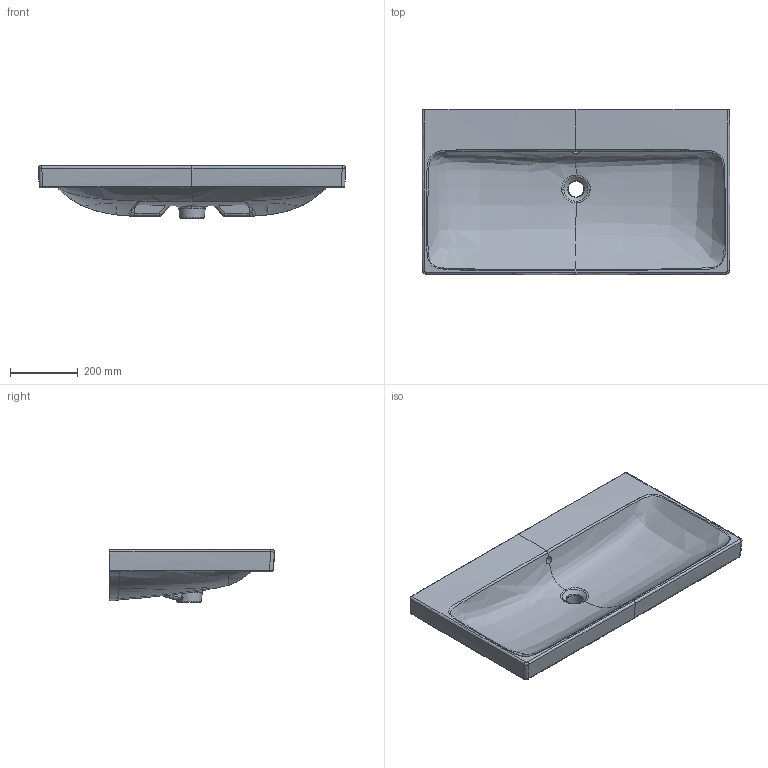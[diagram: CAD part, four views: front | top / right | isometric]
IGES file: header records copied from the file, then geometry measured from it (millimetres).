
Global section: file name: 510.009.00.5; native system: Autodesk Inventor 2023; preprocessor: unknown; author: JANAN; date: 20241002.131109; units: millimetre
Bounding box: 905.76 x 487.69 x 155.95 mm (x, y, z)
Volume: 18485176.2 mm3; surface area: 1313607.4 mm2
Topology: 1 solids, 1 shells, 268 faces, 786 edges, 516 vertices
Faces by surface type: bspline 268
